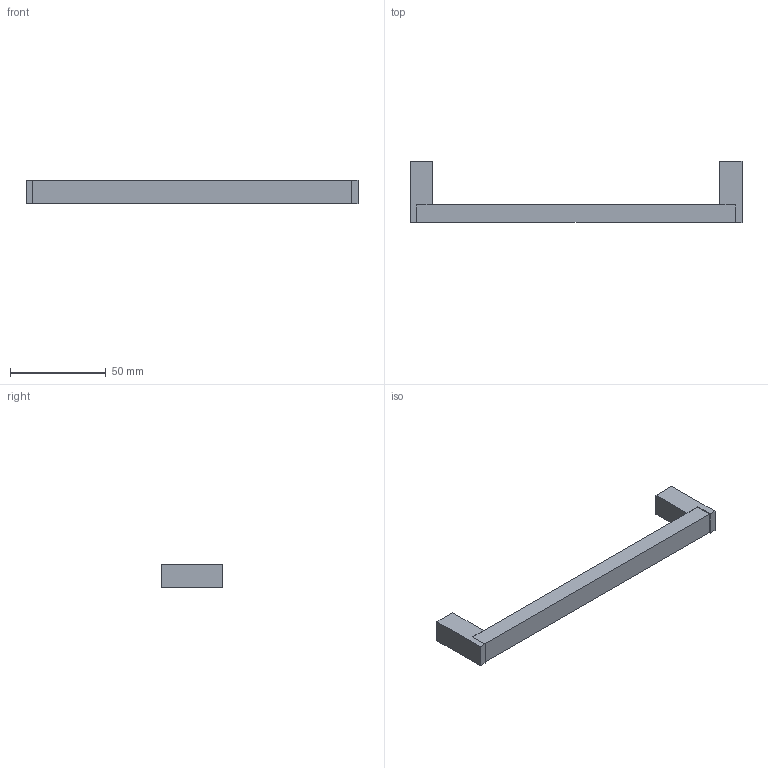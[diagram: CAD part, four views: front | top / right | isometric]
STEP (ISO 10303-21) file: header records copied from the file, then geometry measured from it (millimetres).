
FILE_DESCRIPTION( ( 'STEP AP214' ), '1' );
FILE_NAME( 'C:/Users/kulkarni/Desktop/Apurva/2015/Prodecor_2016/Cadfiles/bermeo/9208083.stp', ' ', ( ' ' ), ( ' ' ), 'PSStep 15.0.47', 'PARTsolutions', ' ' );
FILE_SCHEMA( ( 'AUTOMOTIVE_DESIGN { 1 0 10303 214 1 1 1 1 }' ) );
Length unit declared in the file: millimetre
Products named in the file (1): _
Bounding box: 173 x 32 x 12.15 mm (x, y, z)
Volume: 23875.9 mm3; surface area: 10023.8 mm2
Topology: 1 solids, 1 shells, 26 faces, 62 edges, 40 vertices
Faces by surface type: plane 24, cylinder 2
Full cylindrical faces by diameter (mm): 5 x2
Entity records: 952 total; most frequent: CARTESIAN_POINT 127, ORIENTED_EDGE 120, DIRECTION 118, EDGE_CURVE 60, LINE 56, VECTOR 56, VERTEX_POINT 40, AXIS2_PLACEMENT_3D 31
